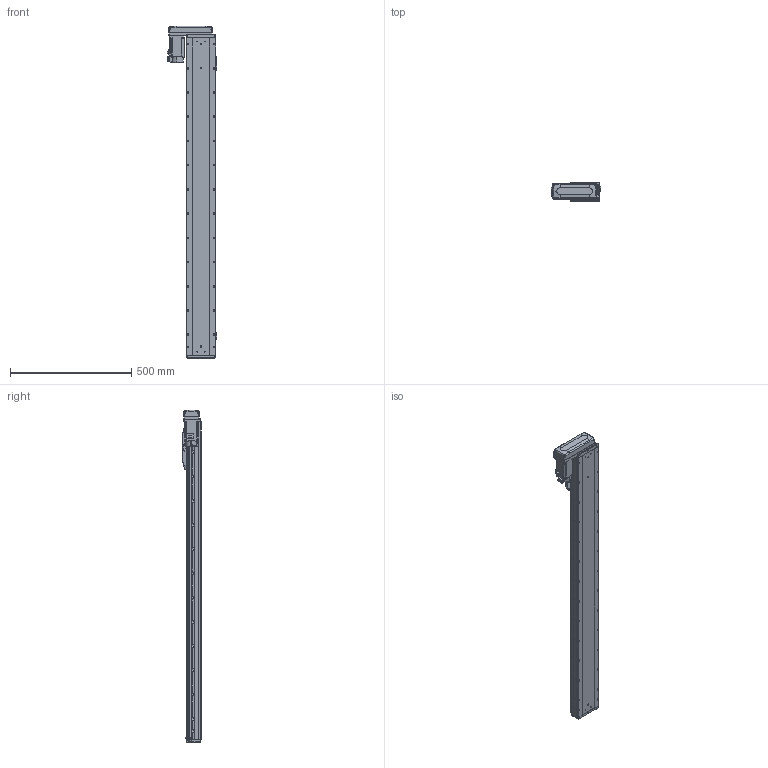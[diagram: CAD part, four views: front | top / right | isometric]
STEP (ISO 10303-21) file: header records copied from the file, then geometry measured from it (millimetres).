
FILE_DESCRIPTION (( 'STEP AP203' ), '1' );
FILE_NAME ('GTH12-1100-BR-M40-C4.step', '2025-07-16T03:43:07', ( '' ), ( '' ), 'SwSTEP 2.0', 'SolidWorks 2023', '' );
FILE_SCHEMA (( 'CONFIG_CONTROL_DESIGN' ));
Length unit declared in the file: millimetre
Products named in the file (18): GTH120-006; GTH120-003; GTH120-004; GTH50-023; GTH80-028; GTH120-027-1_GTH120-027-2; GBT 70.1-M3×6; GTH50-024; GBT 70.3-M3×8; GBT96.1-2002 3×0.8; GTH120-013; hg-kn43j_-s100_; GTH80-022; GBT 70.1-M5×16; CTHA86-033_M40B; BTH-M3X5X6; GTH120-001_1100; GTH12-1100-BR-M40-C4
Assembly tree (59 placements, depth 2):
  GTH12-1100-BR-M40-C4
    GTH120-001_1100
    GTH120-003
    GTH120-006
    GTH120-004
    GTH120-013
    GBT 70.1-M3×6  x14
    GBT 70.1-M5×16  x10
    GBT 70.3-M3×8  x4
    GTH80-022
    GTH80-028  x2
    GTH50-023  x3
    GTH50-024  x3
    GBT96.1-2002 3×0.8  x6
    BTH-M3X5X6  x8
    hg-kn43j_-s100_
    CTHA86-033_M40B
    GTH120-027-1_GTH120-027-2
Bounding box: 203.5 x 76 x 1370.5 mm (x, y, z)
Volume: 9785793.4 mm3; surface area: 828209.2 mm2
Topology: 61 solids, 61 shells, 2568 faces, 6027 edges, 3701 vertices
Faces by surface type: plane 1304, cylinder 764, cone 312, torus 174, sphere 8, bspline 6
Entity records: 49465 total; most frequent: CARTESIAN_POINT 8382, DIRECTION 8239, ORIENTED_EDGE 7664, EDGE_CURVE 3832, AXIS2_PLACEMENT_3D 2879, LINE 2481, VECTOR 2481, VERTEX_POINT 2422
